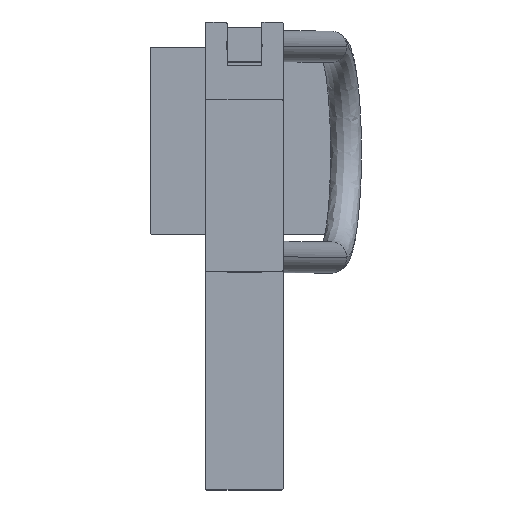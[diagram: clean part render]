
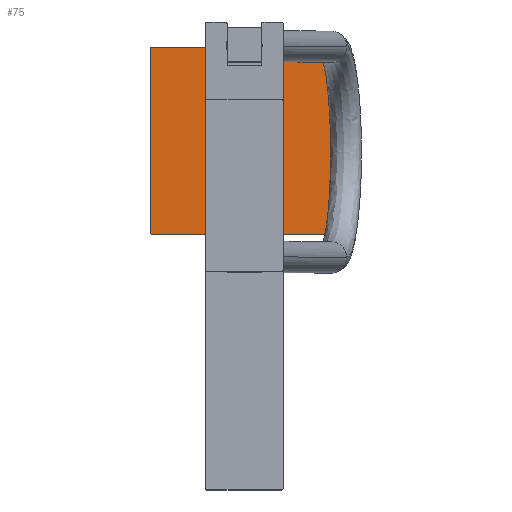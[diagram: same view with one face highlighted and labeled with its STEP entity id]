
A CAD part, top view. The second image highlights one B-rep face of the part: STEP entity #75.
In plain terms, the highlighted planar face has unit normal (0, 0, 1).
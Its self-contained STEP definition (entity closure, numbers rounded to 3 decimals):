
#75 = ADVANCED_FACE('',(#76),#146,.T.);
#76 = FACE_BOUND('',#77,.T.);
#77 = EDGE_LOOP('',(#78,#88,#97,#105,#114,#122,#131,#139));
#78 = ORIENTED_EDGE('',*,*,#79,.T.);
#79 = EDGE_CURVE('',#80,#82,#84,.T.);
#80 = VERTEX_POINT('',#81);
#81 = CARTESIAN_POINT('',(59.,60.,40.));
#82 = VERTEX_POINT('',#83);
#83 = CARTESIAN_POINT('',(-59.,60.,40.));
#84 = LINE('',#85,#86);
#85 = CARTESIAN_POINT('',(59.,60.,40.));
#86 = VECTOR('',#87,1.);
#87 = DIRECTION('',(-1.,0.,0.));
#88 = ORIENTED_EDGE('',*,*,#89,.T.);
#89 = EDGE_CURVE('',#82,#90,#92,.T.);
#90 = VERTEX_POINT('',#91);
#91 = CARTESIAN_POINT('',(-60.,59.,40.));
#92 = CIRCLE('',#93,1.);
#93 = AXIS2_PLACEMENT_3D('',#94,#95,#96);
#94 = CARTESIAN_POINT('',(-59.,59.,40.));
#95 = DIRECTION('',(0.,0.,1.));
#96 = DIRECTION('',(1.,0.,0.));
#97 = ORIENTED_EDGE('',*,*,#98,.T.);
#98 = EDGE_CURVE('',#90,#99,#101,.T.);
#99 = VERTEX_POINT('',#100);
#100 = CARTESIAN_POINT('',(-60.,-59.,40.));
#101 = LINE('',#102,#103);
#102 = CARTESIAN_POINT('',(-60.,59.,40.));
#103 = VECTOR('',#104,1.);
#104 = DIRECTION('',(0.,-1.,0.));
#105 = ORIENTED_EDGE('',*,*,#106,.T.);
#106 = EDGE_CURVE('',#99,#107,#109,.T.);
#107 = VERTEX_POINT('',#108);
#108 = CARTESIAN_POINT('',(-59.,-60.,40.));
#109 = CIRCLE('',#110,1.);
#110 = AXIS2_PLACEMENT_3D('',#111,#112,#113);
#111 = CARTESIAN_POINT('',(-59.,-59.,40.));
#112 = DIRECTION('',(0.,0.,1.));
#113 = DIRECTION('',(1.,0.,0.));
#114 = ORIENTED_EDGE('',*,*,#115,.T.);
#115 = EDGE_CURVE('',#107,#116,#118,.T.);
#116 = VERTEX_POINT('',#117);
#117 = CARTESIAN_POINT('',(59.,-60.,40.));
#118 = LINE('',#119,#120);
#119 = CARTESIAN_POINT('',(-59.,-60.,40.));
#120 = VECTOR('',#121,1.);
#121 = DIRECTION('',(1.,0.,0.));
#122 = ORIENTED_EDGE('',*,*,#123,.T.);
#123 = EDGE_CURVE('',#116,#124,#126,.T.);
#124 = VERTEX_POINT('',#125);
#125 = CARTESIAN_POINT('',(60.,-59.,40.));
#126 = CIRCLE('',#127,1.);
#127 = AXIS2_PLACEMENT_3D('',#128,#129,#130);
#128 = CARTESIAN_POINT('',(59.,-59.,40.));
#129 = DIRECTION('',(0.,0.,1.));
#130 = DIRECTION('',(1.,0.,0.));
#131 = ORIENTED_EDGE('',*,*,#132,.T.);
#132 = EDGE_CURVE('',#124,#133,#135,.T.);
#133 = VERTEX_POINT('',#134);
#134 = CARTESIAN_POINT('',(60.,59.,40.));
#135 = LINE('',#136,#137);
#136 = CARTESIAN_POINT('',(60.,-59.,40.));
#137 = VECTOR('',#138,1.);
#138 = DIRECTION('',(0.,1.,0.));
#139 = ORIENTED_EDGE('',*,*,#140,.T.);
#140 = EDGE_CURVE('',#133,#80,#141,.T.);
#141 = CIRCLE('',#142,1.);
#142 = AXIS2_PLACEMENT_3D('',#143,#144,#145);
#143 = CARTESIAN_POINT('',(59.,59.,40.));
#144 = DIRECTION('',(0.,0.,1.));
#145 = DIRECTION('',(1.,0.,0.));
#146 = PLANE('',#147);
#147 = AXIS2_PLACEMENT_3D('',#148,#149,#150);
#148 = CARTESIAN_POINT('',(-124.224,60.,40.));
#149 = DIRECTION('',(0.,0.,1.));
#150 = DIRECTION('',(-1.,0.,0.));
